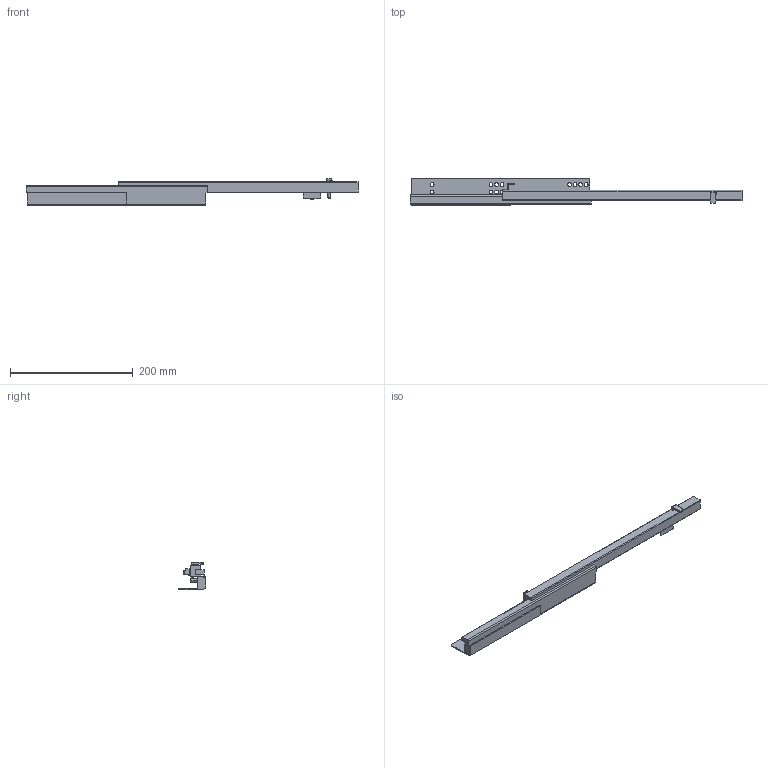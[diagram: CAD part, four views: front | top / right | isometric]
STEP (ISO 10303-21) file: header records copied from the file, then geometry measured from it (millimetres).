
FILE_DESCRIPTION (( 'STEP AP203' ), '1' );
FILE_NAME ('GG10400H-R-DTC3D-open.STEP', '2021-07-02T01:01:11', ( 'df' ), ( 'Microsoft' ), 'SwSTEP 2.0', 'SolidWorks 2018', '' );
FILE_SCHEMA (( 'CONFIG_CONTROL_DESIGN' ));
Length unit declared in the file: millimetre
Products named in the file (1): GG10400H-R-DTC3D-open
Bounding box: 541 x 44.1 x 44.73 mm (x, y, z)
Volume: 207370.1 mm3; surface area: 75014.2 mm2
Topology: 1 solids, 1 shells, 164 faces, 459 edges, 297 vertices
Faces by surface type: cylinder 80, plane 76, bspline 4, sphere 2, cone 2
Entity records: 5493 total; most frequent: CARTESIAN_POINT 1096, ORIENTED_EDGE 914, DIRECTION 899, EDGE_CURVE 457, AXIS2_PLACEMENT_3D 311, VERTEX_POINT 297, VECTOR 277, LINE 277
